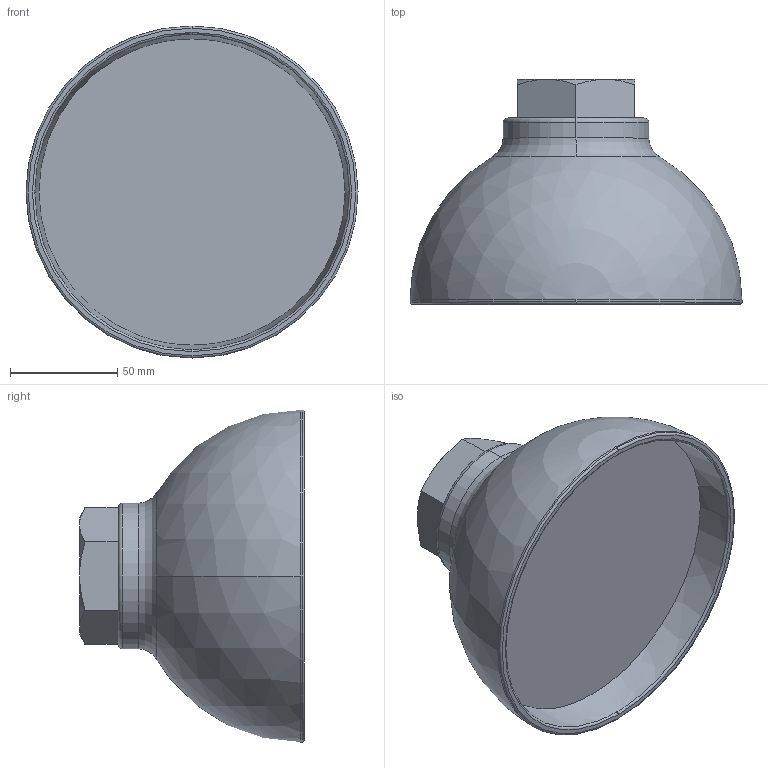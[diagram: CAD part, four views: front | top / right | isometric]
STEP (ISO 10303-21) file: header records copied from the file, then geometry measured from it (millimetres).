
FILE_DESCRIPTION (( 'STEP AP203' ), '1' );
FILE_NAME ('MS-2 32A.STEP', '2026-01-23T00:45:25', ( '' ), ( '' ), 'SwSTEP 2.0', 'SolidWorks 2024', '' );
FILE_SCHEMA (( 'CONFIG_CONTROL_DESIGN' ));
Length unit declared in the file: millimetre
Products named in the file (1): MS-2 32A
Bounding box: 155 x 105 x 155 mm (x, y, z)
Volume: 786991.3 mm3; surface area: 72848.3 mm2
Topology: 1 solids, 1 shells, 38 faces, 86 edges, 51 vertices
Faces by surface type: cone 11, plane 11, torus 8, cylinder 4, sphere 4
Entity records: 1192 total; most frequent: CARTESIAN_POINT 254, DIRECTION 201, ORIENTED_EDGE 168, AXIS2_PLACEMENT_3D 90, EDGE_CURVE 84, CIRCLE 51, VERTEX_POINT 51, EDGE_LOOP 41
